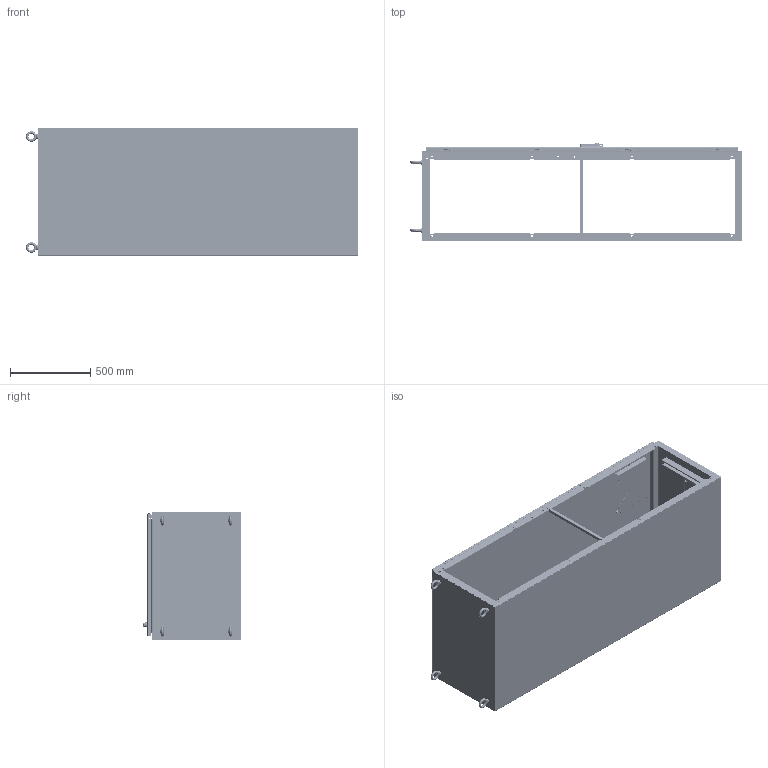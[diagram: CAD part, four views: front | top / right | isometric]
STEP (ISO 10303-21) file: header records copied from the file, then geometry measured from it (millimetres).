
FILE_DESCRIPTION((''),'2;1');
FILE_NAME('MODEL-255_ASM','2021-08-02T11:39:41',('mikek'),('SAGINAW CONTROL & ENGINEERING'),'CREO PARAMETRIC BY PTC INC, 2017260','CREO PARAMETRIC BY PTC INC, 2017260','');
FILE_SCHEMA(('AUTOMOTIVE_DESIGN { 1 0 10303 214 1 1 1 1 }'));
Length unit declared in the file: inch
Products named in the file (61): MODEL-255-R-SD; MODEL-255-L-SD; MODEL-255-TP; MODEL-255-BTM; MODEL-255-DR; 100837; 111267; 100882; 129332-HANDLE-BODY; 129332-HANDLE-SHAFT-O-RING; 129332-HANDLE; 129332-HANDLE-CAP; 129332-HANDLE-SHAFT; 129332-HANDLE-PIN; 129332-HANDLE_ASM; 129332-BODY-CAP; 129332-HANDLE-STOP; 129332-CAM-ADAPTER; 129332-LOCK-NUT; 129332-NUT; 129332_ASM; 102237; 100030; 102237_ASM; MODEL-255-ROD-UPR; 128146; 128145; 128144; 102482; MODEL-255-ROD-UPR_ASM; 128143; 112504; MODEL-255-ROD-LWR; MODEL-255-ROD-LWR_ASM; MODEL-255-GSKT; 128257; 126397; 128257_ASM; 126393; 102483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
Assembly tree (123 placements, depth 5):
  MODEL-255_ASM
    MODEL-255-R-SD
    MODEL-255-L-SD
    MODEL-255-TP
    MODEL-255-BTM
    MODEL-255-DOOR-ASSY_ASM
      MODEL-255-DR
      100837  x5
      111267
      100882  x12
      129332_ASM
        129332-HANDLE-BODY
        129332-HANDLE_ASM
          129332-HANDLE-SHAFT-O-RING
          129332-HANDLE
          129332-HANDLE-CAP
          129332-HANDLE-SHAFT
          129332-HANDLE-PIN
        129332-BODY-CAP
        129332-HANDLE-STOP
        129332-CAM-ADAPTER
        129332-LOCK-NUT
        129332-NUT  x2
      102237_ASM
        102237
        100030  x2
      MODEL-255-ROD-UPR_ASM
        MODEL-255-ROD-UPR
        128146
        128145
        128144
        102482  x2
      128143  x2
      112504  x2
      MODEL-255-ROD-LWR_ASM
        MODEL-255-ROD-LWR
        128146
        128145
        128144
        102482  x2
      MODEL-255-GSKT
      128257_ASM  x4
        128257
        126397
      126393  x4
      102483  x4
      101369_ASM  x4
        101369
        101369-STUD
      101221  x4
    100064  x5
    MODEL-255-EBS  x2
    MODEL-255-B22  x4
    102278  x2
    103300_ASM  x4
      100834
      109064
      114505
    102297
    100882  x8
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Bounding box: 2074.9 x 613.42 x 804.01 mm (x, y, z)
Volume: 15843909.6 mm3; surface area: 11607463.9 mm2
Topology: 128 solids, 128 shells, 12699 faces, 33632 edges, 21131 vertices
Faces by surface type: plane 4317, bspline 3831, cylinder 3207, torus 653, cone 392, sphere 269, extrusion 30
Entity records: 260646 total; most frequent: CARTESIAN_POINT 104981, ORIENTED_EDGE 23914, DIRECTION 21234, PRESENTATION_STYLE_ASSIGNMENT 11998, STYLED_ITEM 11998, EDGE_CURVE 11957, CURVE_STYLE 11945, AXIS2_PLACEMENT_3D 7954
